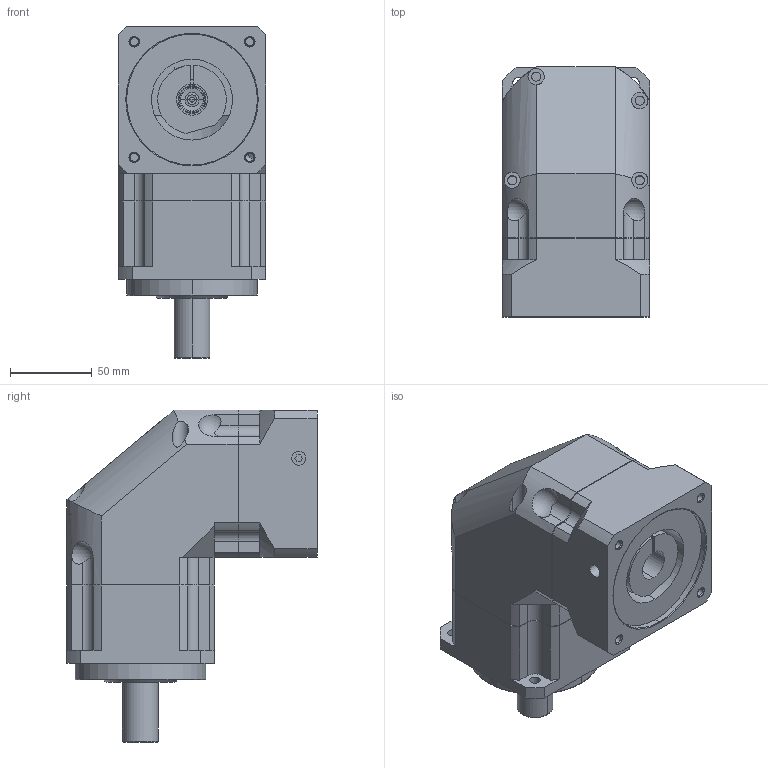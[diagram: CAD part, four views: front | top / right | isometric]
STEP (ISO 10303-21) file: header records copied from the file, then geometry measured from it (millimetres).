
FILE_DESCRIPTION((''),'2;1');
FILE_NAME('ABR0901-P4030101_ASM','2006-03-16T',('D00036'),(''),'PRO/ENGINEER BY PARAMETRIC TECHNOLOGY CORPORATION, 2001280','PRO/ENGINEER BY PARAMETRIC TECHNOLOGY CORPORATION, 2001280','');
FILE_SCHEMA(('CONFIG_CONTROL_DESIGN'));
Length unit declared in the file: millimetre
Products named in the file (4): AB0901; PD030001; P4030101; ABR0901-P4030101_ASM
Assembly tree (3 placements, depth 2):
  ABR0901-P4030101_ASM
    AB0901
    PD030001
    P4030101
Bounding box: 90 x 153 x 203 mm (x, y, z)
Volume: 1100507.6 mm3; surface area: 163162 mm2
Topology: 4 solids, 15 shells, 434 faces, 1052 edges, 648 vertices
Faces by surface type: cylinder 166, plane 156, cone 88, torus 20, sphere 4
Entity records: 13259 total; most frequent: CARTESIAN_POINT 2808, DIRECTION 2317, ORIENTED_EDGE 2028, EDGE_CURVE 1038, AXIS2_PLACEMENT_3D 919, VERTEX_POINT 648, EDGE_LOOP 492, VECTOR 479
